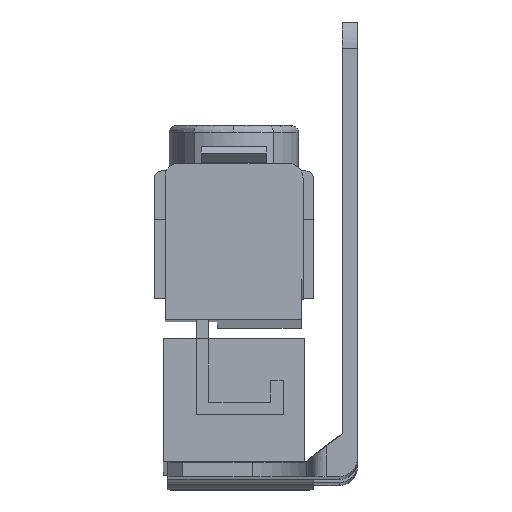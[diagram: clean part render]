
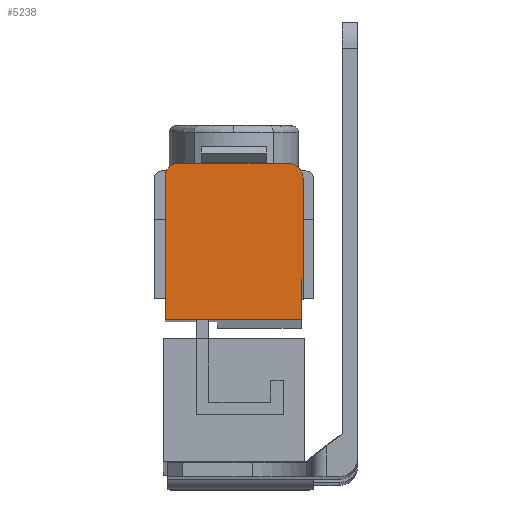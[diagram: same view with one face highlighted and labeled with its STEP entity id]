
A CAD part, front view. The second image highlights one B-rep face of the part: STEP entity #5238.
In plain terms, the highlighted planar face has unit normal (0, -1, 0.007).
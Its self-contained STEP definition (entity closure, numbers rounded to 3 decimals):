
#176 = VERTEX_POINT ( 'NONE', #504 ) ;
#182 = VERTEX_POINT ( 'NONE', #510 ) ;
#202 = VERTEX_POINT ( 'NONE', #530 ) ;
#205 = VERTEX_POINT ( 'NONE', #533 ) ;
#228 = VERTEX_POINT ( 'NONE', #556 ) ;
#230 = VERTEX_POINT ( 'NONE', #558 ) ;
#233 = VERTEX_POINT ( 'NONE', #561 ) ;
#235 = VERTEX_POINT ( 'NONE', #563 ) ;
#504 = CARTESIAN_POINT ( 'NONE',  ( -7.75, -25.282, -26.028 ) ) ;
#510 = CARTESIAN_POINT ( 'NONE',  ( -26.5, -25.282, -26.028 ) ) ;
#530 = CARTESIAN_POINT ( 'NONE',  ( -7.75, -25.244, -20.528 ) ) ;
#533 = CARTESIAN_POINT ( 'NONE',  ( -7.5, -25.146, -6.578 ) ) ;
#556 = CARTESIAN_POINT ( 'NONE',  ( -26.5, -25.144, -6.278 ) ) ;
#558 = CARTESIAN_POINT ( 'NONE',  ( -9.55, -25.132, -4.528 ) ) ;
#561 = CARTESIAN_POINT ( 'NONE',  ( -7.5, -25.244, -20.528 ) ) ;
#563 = CARTESIAN_POINT ( 'NONE',  ( -24.75, -25.132, -4.528 ) ) ;
#1539 = PLANE ( 'NONE',  #2130 ) ;
#1540 = CARTESIAN_POINT ( 'NONE',  ( -24.75, -25.144, -6.278 ) ) ;
#1541 = DIRECTION ( 'NONE',  ( 0., -1., 0.007 ) ) ;
#1542 = DIRECTION ( 'NONE',  ( 0., -0.007, -1. ) ) ;
#2130 = AXIS2_PLACEMENT_3D ( 'NONE', #1540, #1541, #1542 ) ;
#2361 = EDGE_LOOP ( 'NONE', ( #2745, #2744, #2743, #2742, #2741, #2740, #2739, #2738 ) ) ;
#2738 = ORIENTED_EDGE ( 'NONE', *, *, #3619, .T. ) ;
#2739 = ORIENTED_EDGE ( 'NONE', *, *, #3623, .T. ) ;
#2740 = ORIENTED_EDGE ( 'NONE', *, *, #3622, .T. ) ;
#2741 = ORIENTED_EDGE ( 'NONE', *, *, #3618, .T. ) ;
#2742 = ORIENTED_EDGE ( 'NONE', *, *, #3614, .T. ) ;
#2743 = ORIENTED_EDGE ( 'NONE', *, *, #3611, .T. ) ;
#2744 = ORIENTED_EDGE ( 'NONE', *, *, #3607, .T. ) ;
#2745 = ORIENTED_EDGE ( 'NONE', *, *, #3604, .T. ) ;
#3604 = EDGE_CURVE ( 'NONE', #233, #205, #4530, .T. ) ;
#3607 = EDGE_CURVE ( 'NONE', #205, #230, #4537, .T. ) ;
#3611 = EDGE_CURVE ( 'NONE', #230, #235, #4543, .T. ) ;
#3614 = EDGE_CURVE ( 'NONE', #235, #228, #4550, .T. ) ;
#3618 = EDGE_CURVE ( 'NONE', #228, #182, #4556, .T. ) ;
#3619 = EDGE_CURVE ( 'NONE', #202, #233, #4558, .T. ) ;
#3622 = EDGE_CURVE ( 'NONE', #182, #176, #4564, .T. ) ;
#3623 = EDGE_CURVE ( 'NONE', #176, #202, #4566, .T. ) ;
#3857 = AXIS2_PLACEMENT_3D ( 'NONE', #5549, #5550, #5551 ) ;
#3858 = AXIS2_PLACEMENT_3D ( 'NONE', #5564, #5565, #5566 ) ;
#4530 = LINE ( 'NONE', #5543, #4531 ) ;
#4531 = VECTOR ( 'NONE', #5544, 1000. ) ;
#4537 = CIRCLE ( 'NONE', #3857, 2.05 ) ;
#4543 = LINE ( 'NONE', #5558, #4544 ) ;
#4544 = VECTOR ( 'NONE', #5559, 1000. ) ;
#4550 = CIRCLE ( 'NONE', #3858, 1.75 ) ;
#4556 = LINE ( 'NONE', #5573, #4557 ) ;
#4557 = VECTOR ( 'NONE', #5574, 1000. ) ;
#4558 = LINE ( 'NONE', #5575, #4559 ) ;
#4559 = VECTOR ( 'NONE', #5576, 1000. ) ;
#4564 = LINE ( 'NONE', #5581, #4565 ) ;
#4565 = VECTOR ( 'NONE', #5582, 1000. ) ;
#4566 = LINE ( 'NONE', #5583, #4567 ) ;
#4567 = VECTOR ( 'NONE', #5584, 1000. ) ;
#4964 = FACE_OUTER_BOUND ( 'NONE', #2361, .T. ) ;
#5238 = ADVANCED_FACE ( 'NONE', ( #4964 ), #1539, .T. ) ;
#5543 = CARTESIAN_POINT ( 'NONE',  ( -7.5, -25.146, -6.578 ) ) ;
#5544 = DIRECTION ( 'NONE',  ( 0., 0.007, 1. ) ) ;
#5549 = CARTESIAN_POINT ( 'NONE',  ( -9.55, -25.146, -6.578 ) ) ;
#5550 = DIRECTION ( 'NONE',  ( 0., -1., 0.007 ) ) ;
#5551 = DIRECTION ( 'NONE',  ( 0., 0.007, 1. ) ) ;
#5558 = CARTESIAN_POINT ( 'NONE',  ( -24.75, -25.132, -4.528 ) ) ;
#5559 = DIRECTION ( 'NONE',  ( -1., 0., 0. ) ) ;
#5564 = CARTESIAN_POINT ( 'NONE',  ( -24.75, -25.144, -6.278 ) ) ;
#5565 = DIRECTION ( 'NONE',  ( 0., -1., 0.007 ) ) ;
#5566 = DIRECTION ( 'NONE',  ( 0., -0.007, -1. ) ) ;
#5573 = CARTESIAN_POINT ( 'NONE',  ( -26.5, -25.144, -6.278 ) ) ;
#5574 = DIRECTION ( 'NONE',  ( 0., -0.007, -1. ) ) ;
#5575 = CARTESIAN_POINT ( 'NONE',  ( -26.5, -25.244, -20.528 ) ) ;
#5576 = DIRECTION ( 'NONE',  ( 1., 0., 0. ) ) ;
#5581 = CARTESIAN_POINT ( 'NONE',  ( -7.75, -25.282, -26.028 ) ) ;
#5582 = DIRECTION ( 'NONE',  ( 1., 0., 0. ) ) ;
#5583 = CARTESIAN_POINT ( 'NONE',  ( -7.75, -25.282, -26.028 ) ) ;
#5584 = DIRECTION ( 'NONE',  ( 0., 0.007, 1. ) ) ;
